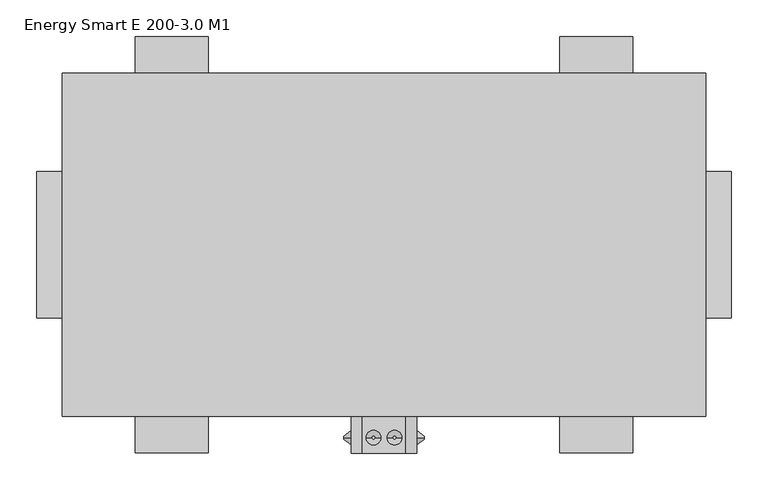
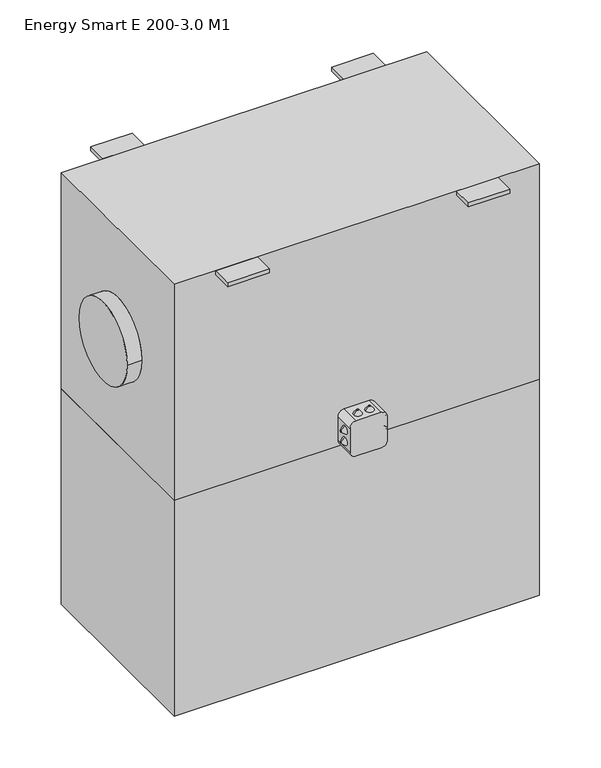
"""IFC4 building model written with IfcOpenShell, lengths in millimetres: proxy geometry, ADSK_КПВУ_ENERGY SMART E_круглая : Energy Smart E 200-3.0 M1."""

from ifc_helpers import new_model, si_unit, point, frame, frame_2d, origin, place, context, project, spatial, polyline, circle_curve, trimmed, segment, composite_curve, outline, extrude, source, transform, mapped, element, save
from ifc_brep_helpers import plane_surface, cylinder_surface, revolved_surface, advanced_brep


def energy_smart_e_200_3_0_m1_1592dbf7(model_context):
    return source(origin(), model_context, "Body", "SolidModel", [
        advanced_brep(
        [(211.0, -263.9311792, -246.7092609), (211.0, -263.9311792, -242.7092609), (221.0, -263.9311792, -254.7092609), (221.0, -263.9311792, -234.7092609)],
        [
            (0, 1, circle_curve(frame((211.0, -263.9311792, -244.7092609), z_axis=(-1.0, 0.0, 0.0), x_axis=(0.0, 0.0, -1.0)), 2.0)),
            (1, 0, circle_curve(frame((211.0, -263.9311792, -244.7092609), z_axis=(-1.0, 0.0, 0.0), x_axis=(0.0, 0.0, 1.0)), 2.0)),
            (2, 3, circle_curve(frame((221.0, -263.9311792, -244.7092609), z_axis=(1.0, 0.0, 0.0), x_axis=(0.0, 0.0, 1.0)), 10.0)),
            (3, 2, circle_curve(frame((221.0, -263.9311792, -244.7092609), z_axis=(1.0, 0.0, 0.0), x_axis=(0.0, 0.0, -1.0)), 10.0)),
            (2, 0),
            (1, 3),
        ],
        [
            plane_surface(frame((211.0, -263.9311792, -244.7092609), z_axis=(-1.0, 0.0, 0.0), x_axis=(0.0, -1.0, 0.0))),
            plane_surface(frame((221.0, -263.9311792, -244.7092609), z_axis=(1.0, 0.0, 0.0), x_axis=(0.0, -1.0, 0.0))),
            revolved_surface(polyline([(211.0, -263.9311792, -242.7092609), (221.0, -263.9311792, -234.7092609)]), (208.5, -263.9311792, -244.7092609), (1.0, 0.0, 0.0)),
            revolved_surface(polyline([(211.0, -263.9311792, -246.7092609), (221.0, -263.9311792, -254.7092609)]), (208.5, -263.9311792, -244.7092609), (1.0, 0.0, 0.0)),
        ],
        [
            (0, [[1, 2]]),
            (1, [[3, 4]]),
            (2, [[-3, 5, -2, 6]]),
            (3, [[-4, -6, -1, -5]]),
        ],
    ),
        advanced_brep(
        [(211.0, -263.9311792, -214.0531164), (211.0, -263.9311792, -218.0531164), (221.0, -263.9311792, -206.0531164), (221.0, -263.9311792, -226.0531164)],
        [
            (0, 1, circle_curve(frame((211.0, -263.9311792, -216.0531164), z_axis=(-1.0, 0.0, 0.0), x_axis=(0.0, 0.0, 1.0)), 2.0)),
            (1, 0, circle_curve(frame((211.0, -263.9311792, -216.0531164), z_axis=(-1.0, 0.0, 0.0), x_axis=(0.0, 0.0, -1.0)), 2.0)),
            (2, 3, circle_curve(frame((221.0, -263.9311792, -216.0531164), z_axis=(1.0, 0.0, 0.0), x_axis=(0.0, 0.0, -1.0)), 10.0)),
            (3, 2, circle_curve(frame((221.0, -263.9311792, -216.0531164), z_axis=(1.0, 0.0, 0.0), x_axis=(0.0, 0.0, 1.0)), 10.0)),
            (3, 1),
            (0, 2),
        ],
        [
            plane_surface(frame((211.0, -263.9311792, -216.0531164), z_axis=(-1.0, 0.0, 0.0), x_axis=(0.0, 1.0, 0.0))),
            plane_surface(frame((221.0, -263.9311792, -216.0531164), z_axis=(1.0, 0.0, 0.0), x_axis=(0.0, 1.0, 0.0))),
            revolved_surface(polyline([(211.0, -263.9311792, -214.0531164), (221.0, -263.9311792, -206.0531164)]), (208.5, -263.9311792, -216.0531164), (1.0, 0.0, 0.0)),
            revolved_surface(polyline([(211.0, -263.9311792, -218.0531164), (221.0, -263.9311792, -226.0531164)]), (208.5, -263.9311792, -216.0531164), (1.0, 0.0, 0.0)),
        ],
        [
            (0, [[1, 2]]),
            (1, [[3, 4]]),
            (2, [[-4, 5, -1, 6]]),
            (3, [[-3, -6, -2, -5]]),
        ],
    ),
        advanced_brep(
        [(321.0, -263.9311792, -246.7092609), (321.0, -263.9311792, -242.7092609), (311.0, -263.9311792, -254.7092609), (311.0, -263.9311792, -234.7092609)],
        [
            (0, 1, circle_curve(frame((321.0, -263.9311792, -244.7092609), z_axis=(1.0, 0.0, 0.0), x_axis=(0.0, 0.0, -1.0)), 2.0)),
            (1, 0, circle_curve(frame((321.0, -263.9311792, -244.7092609), z_axis=(1.0, 0.0, 0.0), x_axis=(0.0, 0.0, 1.0)), 2.0)),
            (2, 3, circle_curve(frame((311.0, -263.9311792, -244.7092609), z_axis=(-1.0, 0.0, 0.0), x_axis=(0.0, 0.0, 1.0)), 10.0)),
            (3, 2, circle_curve(frame((311.0, -263.9311792, -244.7092609), z_axis=(-1.0, 0.0, 0.0), x_axis=(0.0, 0.0, -1.0)), 10.0)),
            (3, 1),
            (0, 2),
        ],
        [
            plane_surface(frame((321.0, -263.9311792, -244.7092609), z_axis=(1.0, 0.0, 0.0), x_axis=(0.0, 1.0, 0.0))),
            plane_surface(frame((311.0, -263.9311792, -244.7092609), z_axis=(-1.0, 0.0, 0.0), x_axis=(0.0, 1.0, 0.0))),
            revolved_surface(polyline([(321.0, -263.9311792, -246.7092609), (311.0, -263.9311792, -254.7092609)]), (323.5, -263.9311792, -244.7092609), (-1.0, 0.0, 0.0)),
            revolved_surface(polyline([(321.0, -263.9311792, -242.7092609), (311.0, -263.9311792, -234.7092609)]), (323.5, -263.9311792, -244.7092609), (-1.0, 0.0, 0.0)),
        ],
        [
            (0, [[1, 2]]),
            (1, [[3, 4]]),
            (2, [[-4, 5, -1, 6]]),
            (3, [[-3, -6, -2, -5]]),
        ],
    ),
        advanced_brep(
        [(321.0, -263.9311792, -214.0531164), (321.0, -263.9311792, -218.0531164), (311.0, -263.9311792, -206.0531164), (311.0, -263.9311792, -226.0531164)],
        [
            (0, 1, circle_curve(frame((321.0, -263.9311792, -216.0531164), z_axis=(1.0, 0.0, 0.0), x_axis=(0.0, 0.0, 1.0)), 2.0)),
            (1, 0, circle_curve(frame((321.0, -263.9311792, -216.0531164), z_axis=(1.0, 0.0, 0.0), x_axis=(0.0, 0.0, -1.0)), 2.0)),
            (2, 3, circle_curve(frame((311.0, -263.9311792, -216.0531164), z_axis=(-1.0, 0.0, 0.0), x_axis=(0.0, 0.0, -1.0)), 10.0)),
            (3, 2, circle_curve(frame((311.0, -263.9311792, -216.0531164), z_axis=(-1.0, 0.0, 0.0), x_axis=(0.0, 0.0, 1.0)), 10.0)),
            (2, 0),
            (1, 3),
        ],
        [
            plane_surface(frame((321.0, -263.9311792, -216.0531164), z_axis=(1.0, 0.0, 0.0), x_axis=(0.0, -1.0, 0.0))),
            plane_surface(frame((311.0, -263.9311792, -216.0531164), z_axis=(-1.0, 0.0, 0.0), x_axis=(0.0, -1.0, 0.0))),
            revolved_surface(polyline([(321.0, -263.9311792, -218.0531164), (311.0, -263.9311792, -226.0531164)]), (323.5, -263.9311792, -216.0531164), (-1.0, 0.0, 0.0)),
            revolved_surface(polyline([(321.0, -263.9311792, -214.0531164), (311.0, -263.9311792, -206.0531164)]), (323.5, -263.9311792, -216.0531164), (-1.0, 0.0, 0.0)),
        ],
        [
            (0, [[1, 2]]),
            (1, [[3, 4]]),
            (2, [[-3, 5, -2, 6]]),
            (3, [[-4, -6, -1, -5]]),
        ],
    ),
        advanced_brep(
        [(249.6719278, -263.9311792, -285.0), (253.6719278, -263.9311792, -285.0), (241.6719278, -263.9311792, -275.0), (261.6719278, -263.9311792, -275.0)],
        [
            (0, 1, circle_curve(frame((251.6719278, -263.9311792, -285.0), z_axis=(0.0, 0.0, -1.0), x_axis=(-1.0, 0.0, 0.0)), 2.0)),
            (1, 0, circle_curve(frame((251.6719278, -263.9311792, -285.0), z_axis=(0.0, 0.0, -1.0), x_axis=(1.0, 0.0, 0.0)), 2.0)),
            (2, 3, circle_curve(frame((251.6719278, -263.9311792, -275.0), z_axis=(0.0, 0.0, 1.0), x_axis=(1.0, 0.0, 0.0)), 10.0)),
            (3, 2, circle_curve(frame((251.6719278, -263.9311792, -275.0), z_axis=(0.0, 0.0, 1.0), x_axis=(-1.0, 0.0, 0.0)), 10.0)),
            (3, 1),
            (0, 2),
        ],
        [
            plane_surface(frame((251.6719278, -263.9311792, -285.0), z_axis=(0.0, 0.0, -1.0), x_axis=(0.0, 1.0, 0.0))),
            plane_surface(frame((251.6719278, -263.9311792, -275.0), z_axis=(0.0, 0.0, 1.0), x_axis=(0.0, 1.0, 0.0))),
            revolved_surface(polyline([(249.6719278, -263.9311792, -285.0), (241.6719278, -263.9311792, -275.0)]), (251.6719278, -263.9311792, -287.5), (0.0, 0.0, 1.0)),
            revolved_surface(polyline([(253.6719278, -263.9311792, -285.0), (261.6719278, -263.9311792, -275.0)]), (251.6719278, -263.9311792, -287.5), (0.0, 0.0, 1.0)),
        ],
        [
            (0, [[1, 2]]),
            (1, [[3, 4]]),
            (2, [[-4, 5, -1, 6]]),
            (3, [[-3, -6, -2, -5]]),
        ],
    ),
        advanced_brep(
        [(282.3280722, -263.9311792, -285.0), (278.3280722, -263.9311792, -285.0), (290.3280722, -263.9311792, -275.0), (270.3280722, -263.9311792, -275.0)],
        [
            (0, 1, circle_curve(frame((280.3280722, -263.9311792, -285.0), z_axis=(0.0, 0.0, -1.0), x_axis=(1.0, 0.0, 0.0)), 2.0)),
            (1, 0, circle_curve(frame((280.3280722, -263.9311792, -285.0), z_axis=(0.0, 0.0, -1.0), x_axis=(-1.0, 0.0, 0.0)), 2.0)),
            (2, 3, circle_curve(frame((280.3280722, -263.9311792, -275.0), z_axis=(0.0, 0.0, 1.0), x_axis=(-1.0, 0.0, 0.0)), 10.0)),
            (3, 2, circle_curve(frame((280.3280722, -263.9311792, -275.0), z_axis=(0.0, 0.0, 1.0), x_axis=(1.0, 0.0, 0.0)), 10.0)),
            (2, 0),
            (1, 3),
        ],
        [
            plane_surface(frame((280.3280722, -263.9311792, -285.0), z_axis=(0.0, 0.0, -1.0), x_axis=(0.0, -1.0, 0.0))),
            plane_surface(frame((280.3280722, -263.9311792, -275.0), z_axis=(0.0, 0.0, 1.0), x_axis=(0.0, -1.0, 0.0))),
            revolved_surface(polyline([(278.3280722, -263.9311792, -285.0), (270.3280722, -263.9311792, -275.0)]), (280.3280722, -263.9311792, -287.5), (0.0, 0.0, 1.0)),
            revolved_surface(polyline([(282.3280722, -263.9311792, -285.0), (290.3280722, -263.9311792, -275.0)]), (280.3280722, -263.9311792, -287.5), (0.0, 0.0, 1.0)),
        ],
        [
            (0, [[1, 2]]),
            (1, [[3, 4]]),
            (2, [[-3, 5, -2, 6]]),
            (3, [[-4, -6, -1, -5]]),
        ],
    ),
        advanced_brep(
        [(249.6719278, -263.9311792, -175.0), (253.6719278, -263.9311792, -175.0), (241.6719278, -263.9311792, -185.0), (261.6719278, -263.9311792, -185.0)],
        [
            (0, 1, circle_curve(frame((251.6719278, -263.9311792, -175.0), z_axis=(0.0, 0.0, 1.0), x_axis=(-1.0, 0.0, 0.0)), 2.0)),
            (1, 0, circle_curve(frame((251.6719278, -263.9311792, -175.0), z_axis=(0.0, 0.0, 1.0), x_axis=(1.0, 0.0, 0.0)), 2.0)),
            (2, 3, circle_curve(frame((251.6719278, -263.9311792, -185.0), z_axis=(0.0, 0.0, -1.0), x_axis=(1.0, 0.0, 0.0)), 10.0)),
            (3, 2, circle_curve(frame((251.6719278, -263.9311792, -185.0), z_axis=(0.0, 0.0, -1.0), x_axis=(-1.0, 0.0, 0.0)), 10.0)),
            (2, 0),
            (1, 3),
        ],
        [
            plane_surface(frame((251.6719278, -263.9311792, -175.0), z_axis=(0.0, 0.0, 1.0), x_axis=(0.0, -1.0, 0.0))),
            plane_surface(frame((251.6719278, -263.9311792, -185.0), z_axis=(0.0, 0.0, -1.0), x_axis=(0.0, -1.0, 0.0))),
            revolved_surface(polyline([(253.6719278, -263.9311792, -175.0), (261.6719278, -263.9311792, -185.0)]), (251.6719278, -263.9311792, -172.5), (0.0, 0.0, -1.0)),
            revolved_surface(polyline([(249.6719278, -263.9311792, -175.0), (241.6719278, -263.9311792, -185.0)]), (251.6719278, -263.9311792, -172.5), (0.0, 0.0, -1.0)),
        ],
        [
            (0, [[1, 2]]),
            (1, [[3, 4]]),
            (2, [[-3, 5, -2, 6]]),
            (3, [[-4, -6, -1, -5]]),
        ],
    ),
        advanced_brep(
        [(282.3280722, -263.9311792, -175.0), (278.3280722, -263.9311792, -175.0), (290.3280722, -263.9311792, -185.0), (270.3280722, -263.9311792, -185.0)],
        [
            (0, 1, circle_curve(frame((280.3280722, -263.9311792, -175.0), z_axis=(0.0, 0.0, 1.0), x_axis=(1.0, 0.0, 0.0)), 2.0)),
            (1, 0, circle_curve(frame((280.3280722, -263.9311792, -175.0), z_axis=(0.0, 0.0, 1.0), x_axis=(-1.0, 0.0, 0.0)), 2.0)),
            (2, 3, circle_curve(frame((280.3280722, -263.9311792, -185.0), z_axis=(0.0, 0.0, -1.0), x_axis=(-1.0, 0.0, 0.0)), 10.0)),
            (3, 2, circle_curve(frame((280.3280722, -263.9311792, -185.0), z_axis=(0.0, 0.0, -1.0), x_axis=(1.0, 0.0, 0.0)), 10.0)),
            (3, 1),
            (0, 2),
        ],
        [
            plane_surface(frame((280.3280722, -263.9311792, -175.0), z_axis=(0.0, 0.0, 1.0), x_axis=(0.0, 1.0, 0.0))),
            plane_surface(frame((280.3280722, -263.9311792, -185.0), z_axis=(0.0, 0.0, -1.0), x_axis=(0.0, 1.0, 0.0))),
            revolved_surface(polyline([(282.3280722, -263.9311792, -175.0), (290.3280722, -263.9311792, -185.0)]), (280.3280722, -263.9311792, -172.5), (0.0, 0.0, -1.0)),
            revolved_surface(polyline([(278.3280722, -263.9311792, -175.0), (270.3280722, -263.9311792, -185.0)]), (280.3280722, -263.9311792, -172.5), (0.0, 0.0, -1.0)),
        ],
        [
            (0, [[1, 2]]),
            (1, [[3, 4]]),
            (2, [[-4, 5, -1, 6]]),
            (3, [[-3, -6, -2, -5]]),
        ],
    ),
        extrude(outline(composite_curve([segment(polyline([(-275.0, 236.0), (-275.0, 296.0)]), True, "CONTINUOUS"), segment(trimmed(circle_curve(frame_2d((-260.0, 296.0)), 15.0), [point((-275.0, 296.0))], [point((-260.0, 311.0))], False, "CARTESIAN"), True, "CONTINUOUS"), segment(polyline([(-260.0, 311.0), (-200.0, 311.0)]), True, "CONTINUOUS"), segment(trimmed(circle_curve(frame_2d((-200.0, 296.0)), 15.0), [point((-200.0, 311.0))], [point((-185.0, 296.0))], False, "CARTESIAN"), True, "CONTINUOUS"), segment(polyline([(-185.0, 296.0), (-185.0, 236.0)]), True, "CONTINUOUS"), segment(trimmed(circle_curve(frame_2d((-200.0, 236.0)), 15.0), [point((-185.0, 236.0))], [point((-200.0, 221.0))], False, "CARTESIAN"), True, "CONTINUOUS"), segment(polyline([(-200.0, 221.0), (-260.0, 221.0)]), True, "CONTINUOUS"), segment(trimmed(circle_curve(frame_2d((-260.0, 236.0)), 15.0), [point((-260.0, 221.0))], [point((-275.0, 236.0))], False, "CARTESIAN"), True, "CONTINUOUS")], self_intersect=False)), frame((0.0, -285.0, 0.0), z_axis=(0.0, 1.0, 0.0), x_axis=(0.0, 0.0, 1.0)), (0.0, 0.0, 1.0), 50.0),
        advanced_brep(
        [(706.0, -235.0, 275.0), (706.0, -235.0, -275.0), (706.0, 235.0, -275.0), (706.0, 235.0, 275.0), (706.0, 100.0, 0.0), (706.0, -100.0, 0.0), (-174.0, -235.0, 275.0), (-174.0, 235.0, 275.0), (-174.0, 235.0, -275.0), (-174.0, -235.0, -275.0), (-174.0, 100.0, 0.0), (-174.0, -100.0, 0.0), (-209.0, -100.0, 0.0), (-209.0, 100.0, 0.0), (741.0, -100.0, 0.0), (741.0, 100.0, 0.0)],
        [
            (0, 1),
            (1, 2),
            (2, 3),
            (3, 0),
            (4, 5, circle_curve(frame((706.0, 0.0, 0.0), z_axis=(-1.0, 0.0, 0.0), x_axis=(0.0, 1.0, 0.0)), 100.0)),
            (5, 4, circle_curve(frame((706.0, 0.0, 0.0), z_axis=(-1.0, 0.0, 0.0), x_axis=(0.0, 1.0, 0.0)), 100.0)),
            (6, 7),
            (7, 8),
            (8, 9),
            (9, 6),
            (10, 11, circle_curve(frame((-174.0, 0.0, 0.0), z_axis=(1.0, 0.0, 0.0), x_axis=(0.0, 1.0, 0.0)), 100.0)),
            (11, 10, circle_curve(frame((-174.0, 0.0, 0.0), z_axis=(1.0, 0.0, 0.0), x_axis=(0.0, 1.0, 0.0)), 100.0)),
            (12, 13, circle_curve(frame((-209.0, 0.0, 0.0), z_axis=(-1.0, 0.0, 0.0), x_axis=(0.0, 1.0, 0.0)), 100.0)),
            (13, 12, circle_curve(frame((-209.0, 0.0, 0.0), z_axis=(-1.0, 0.0, 0.0), x_axis=(0.0, 1.0, 0.0)), 100.0)),
            (0, 6),
            (9, 1),
            (8, 2),
            (7, 3),
            (12, 11),
            (10, 13),
            (14, 15, circle_curve(frame((741.0, 0.0, 0.0), z_axis=(1.0, 0.0, 0.0), x_axis=(0.0, 1.0, 0.0)), 100.0)),
            (15, 14, circle_curve(frame((741.0, 0.0, 0.0), z_axis=(1.0, 0.0, 0.0), x_axis=(0.0, 1.0, 0.0)), 100.0)),
            (14, 5),
            (4, 15),
        ],
        [
            plane_surface(frame((706.0, -235.0, 275.0), z_axis=(1.0, 0.0, 0.0), x_axis=(0.0, 0.0, -1.0))),
            plane_surface(frame((-174.0, -235.0, 275.0), z_axis=(-1.0, 0.0, 0.0), x_axis=(0.0, 0.0, 1.0))),
            plane_surface(frame((-209.0, 100.0, 0.0), z_axis=(-1.0, 0.0, 0.0), x_axis=(0.0, 0.0, -1.0))),
            plane_surface(frame((706.0, -235.0, 275.0), z_axis=(0.0, -1.0, 0.0), x_axis=(-1.0, 0.0, 0.0))),
            plane_surface(frame((706.0, -235.0, -275.0), z_axis=(0.0, 0.0, -1.0), x_axis=(-1.0, 0.0, 0.0))),
            plane_surface(frame((706.0, 235.0, -275.0), z_axis=(0.0, 1.0, 0.0), x_axis=(-1.0, 0.0, 0.0))),
            plane_surface(frame((706.0, 235.0, 275.0), z_axis=(0.0, 0.0, 1.0), x_axis=(-1.0, 0.0, 0.0))),
            cylinder_surface(frame((-209.0, 0.0, 0.0), z_axis=(1.0, 0.0, 0.0), x_axis=(0.0, 1.0, 0.0)), 100.0),
            plane_surface(frame((741.0, 100.0, 0.0), z_axis=(1.0, 0.0, 0.0), x_axis=(0.0, 0.0, 1.0))),
            cylinder_surface(frame((706.0, 0.0, 0.0), z_axis=(1.0, 0.0, 0.0), x_axis=(0.0, 1.0, 0.0)), 100.0),
        ],
        [
            (0, [[1, 2, 3, 4], [5, 6]]),
            (1, [[7, 8, 9, 10], [11, 12]]),
            (2, [[13, 14]]),
            (3, [[-1, 15, -10, 16]]),
            (4, [[-2, -16, -9, 17]]),
            (5, [[-3, -17, -8, 18]]),
            (6, [[-4, -18, -7, -15]]),
            (7, [[-13, 19, -11, 20]]),
            (7, [[-14, -20, -12, -19]]),
            (8, [[21, 22]]),
            (9, [[-21, 23, -5, 24]]),
            (9, [[-22, -24, -6, -23]]),
        ],
    ),
        extrude(outline(polyline([(26.0, 285.0), (26.0, 235.0), (-74.0, 235.0), (-74.0, 285.0), (26.0, 285.0)])), frame((0.0, 0.0, 265.0), z_axis=(0.0, 0.0, 1.0), x_axis=(1.0, 0.0, 0.0)), (0.0, 0.0, 1.0), 10.0),
        extrude(outline(polyline([(506.0, 285.0), (606.0, 285.0), (606.0, 235.0), (506.0, 235.0), (506.0, 285.0)])), frame((0.0, 0.0, 265.0), z_axis=(0.0, 0.0, 1.0), x_axis=(1.0, 0.0, 0.0)), (0.0, 0.0, 1.0), 10.0),
        extrude(outline(polyline([(26.0, -285.0), (-74.0, -285.0), (-74.0, -235.0), (26.0, -235.0), (26.0, -285.0)])), frame((0.0, 0.0, 265.0), z_axis=(0.0, 0.0, 1.0), x_axis=(1.0, 0.0, 0.0)), (0.0, 0.0, 1.0), 10.0),
        extrude(outline(polyline([(506.0, -285.0), (506.0, -235.0), (606.0, -235.0), (606.0, -285.0), (506.0, -285.0)])), frame((0.0, 0.0, 265.0), z_axis=(0.0, 0.0, 1.0), x_axis=(1.0, 0.0, 0.0)), (0.0, 0.0, 1.0), 10.0),
        extrude(outline(polyline([(706.0, 235.0), (706.0, -235.0), (-174.0, -235.0), (-174.0, 235.0), (706.0, 235.0)])), frame((0.0, 0.0, -825.0), z_axis=(0.0, 0.0, 1.0), x_axis=(1.0, 0.0, 0.0)), (0.0, 0.0, 1.0), 550.0),
    ])


if __name__ == "__main__":
    model = new_model("IFC4")
    model_context = context("Model", 3, world=origin())
    ifc_project = project(units=[si_unit("LENGTHUNIT", "METRE", prefix="MILLI")], contexts=[model_context])
    site = spatial("IfcSite", under=ifc_project)
    building = spatial("IfcBuilding", under=site)
    placement = place(None, origin())
    energy_smart_e_200_3_0_m1_shape = energy_smart_e_200_3_0_m1_1592dbf7(model_context)
    element("IfcBuildingElementProxy", 1, Name="ADSK_КПВУ_ENERGY SMART E_круглая : Energy Smart E 200-3.0 M1", ObjectType="ADSK_КПВУ_ENERGY SMART E_круглая : Energy Smart E 200-3.0 M1", at=placement, inside=building, context=model_context, shape_type="MappedRepresentation", body=[
        mapped(energy_smart_e_200_3_0_m1_shape, transform((0.0, 0.0, 0.0), x_axis=(1.0, 0.0, 0.0), y_axis=(0.0, 1.0, 0.0), z_axis=(0.0, 0.0, 1.0))),
    ])
    save(model, "model.ifc")
